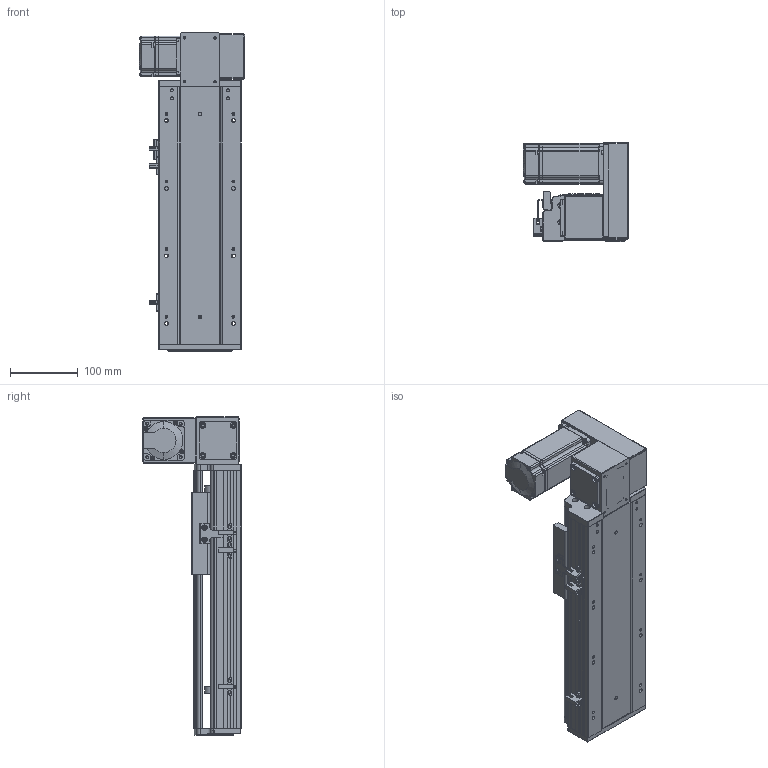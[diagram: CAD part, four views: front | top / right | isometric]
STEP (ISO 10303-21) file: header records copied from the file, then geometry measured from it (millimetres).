
FILE_DESCRIPTION (( 'STEP AP203' ), '1' );
FILE_NAME ('RY120-T-300-UR.SLDASM_150.step', '2021-03-01T05:55:21', ( '盈信电脑' ), ( '东莞市道滘镇水果街19号' ), 'SwSTEP 2.0', 'SolidWorks 2012', '' );
FILE_SCHEMA (( 'CONFIG_CONTROL_DESIGN' ));
Length unit declared in the file: millimetre
Products named in the file (17): RY120-T翋肮祭盓傅釱; RY120-T肮祭湍揤踡輸2; RY120外置感应片(140共用）; RY120綴裔啣; RY120-T肮祭湍揤踡輸1; 覜茼ん672; RY120肮祭湍臏賑輸; RY120-T-300-UR倰第菁釱_150; RY120-T-300-UR倰第奻裔啣_150; RY120-T-300-UR.SLDASM_150; RY120-T主同步轮轴承压盖; RY120-T萇儂欶; RY120-T蹟翐M4; RY120-T萇儂假蚾啣; 滅袉蝶18-10; RY120-T翋肮祭謫裔啣; 15
Assembly tree (22 placements, depth 2):
  RY120-T-300-UR.SLDASM_150
    RY120-T-300-UR倰第菁釱_150
    RY120-T-300-UR倰第奻裔啣_150
    RY120肮祭湍臏賑輸
    RY120綴裔啣
    覜茼ん672  x3
    RY120外置感应片(140共用）
    RY120-T肮祭湍揤踡輸1
    RY120-T肮祭湍揤踡輸2
    RY120-T翋肮祭盓傅釱
    RY120-T萇儂假蚾啣
    滅袉蝶18-10  x2
    RY120-T翋肮祭謫裔啣
    15
    RY120-T蹟翐M4  x4
    RY120-T萇儂欶
    RY120-T主同步轮轴承压盖
Bounding box: 155.5 x 146 x 471 mm (x, y, z)
Volume: 1756077.9 mm3; surface area: 612986.2 mm2
Topology: 23 solids, 23 shells, 2578 faces, 6996 edges, 4514 vertices
Faces by surface type: plane 1386, cylinder 916, cone 187, bspline 89
Entity records: 80947 total; most frequent: CARTESIAN_POINT 19908, ORIENTED_EDGE 12528, DIRECTION 11910, EDGE_CURVE 6264, VERTEX_POINT 4101, LINE 4056, VECTOR 4056, AXIS2_PLACEMENT_3D 3927
